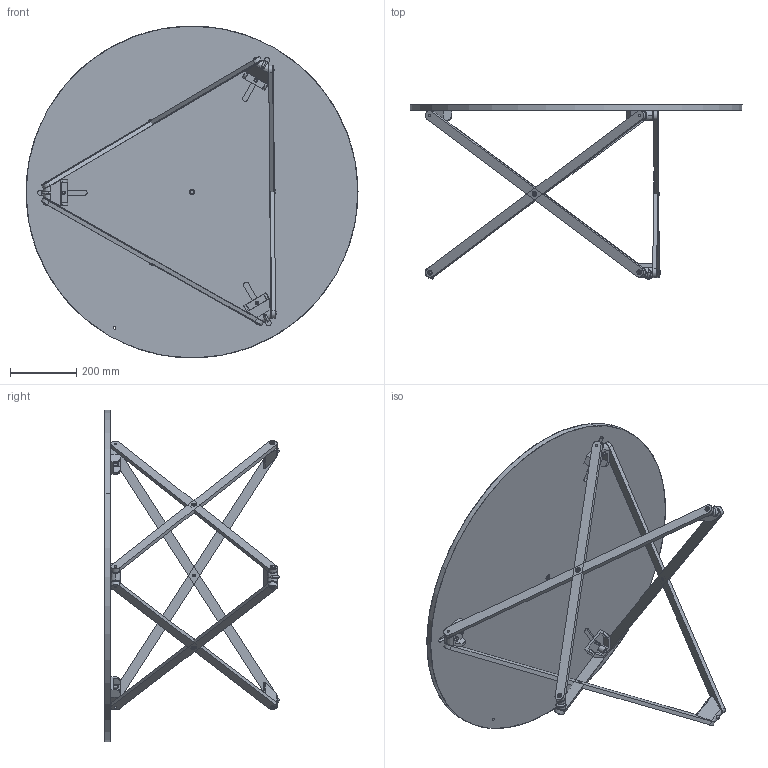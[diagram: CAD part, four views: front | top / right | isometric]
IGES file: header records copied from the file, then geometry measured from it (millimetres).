
Start section: SolidWorks IGES file using analytic representation for surfaces
Global section: file name: C:\Users\Claudiar\Desktop\SUBEYBAJA - 2.IGS; native system: SolidWorks 2015; preprocessor: SolidWorks 2015; author: ClaudiaR; date: 151202.163211; units: millimetre
Bounding box: 998.99 x 524.03 x 998.99 mm (x, y, z)
Surface area: 2147703.1 mm2 (no closed solid volume)
Topology: 0 solids, 0 shells, 260 faces, 5459 edges, 5459 vertices
Faces by surface type: bspline 149, revolution 111
